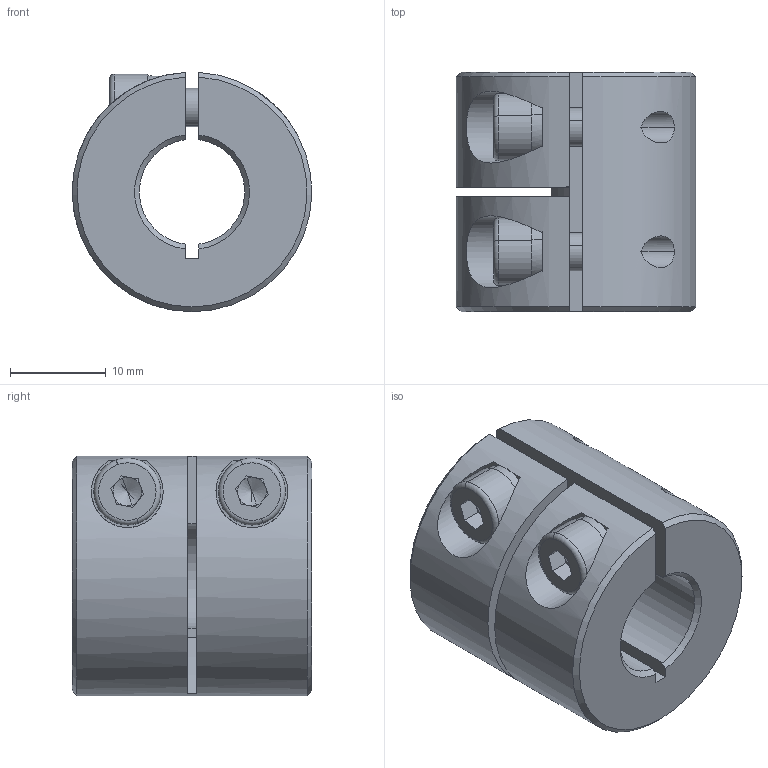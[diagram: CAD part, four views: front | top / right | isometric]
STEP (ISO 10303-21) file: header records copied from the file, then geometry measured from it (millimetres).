
FILE_DESCRIPTION (( 'STEP AP203' ), '1' );
FILE_NAME ('LL-B-D25L25-11-11.STEP', '2021-11-05T06:41:16', ( '' ), ( '' ), 'SwSTEP 2.0', 'SolidWorks 2018', '' );
FILE_SCHEMA (( 'CONFIG_CONTROL_DESIGN' ));
Length unit declared in the file: millimetre
Products named in the file (1): LL-B-D25L25-11-11
Bounding box: 24.99 x 25 x 24.98 mm (x, y, z)
Volume: 9246.1 mm3; surface area: 4898.3 mm2
Topology: 1 solids, 1 shells, 100 faces, 258 edges, 162 vertices
Faces by surface type: plane 50, cylinder 35, cone 11, torus 4
Entity records: 3335 total; most frequent: CARTESIAN_POINT 791, DIRECTION 536, ORIENTED_EDGE 508, EDGE_CURVE 254, AXIS2_PLACEMENT_3D 207, VERTEX_POINT 162, VECTOR 122, LINE 122
